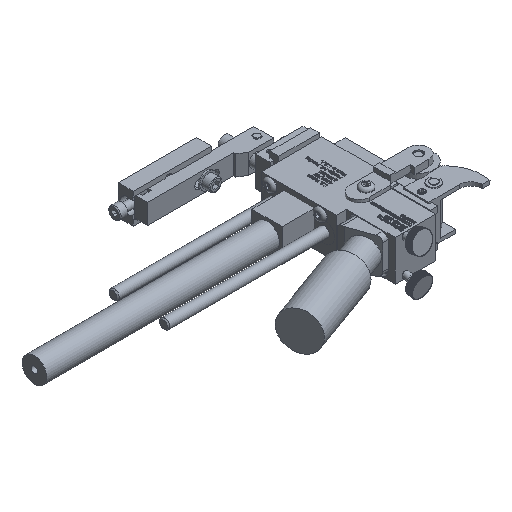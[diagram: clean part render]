
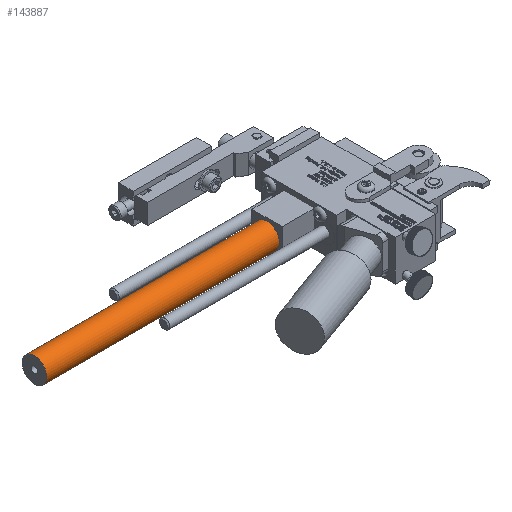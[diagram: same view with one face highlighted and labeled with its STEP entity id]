
A CAD part, isometric view. The second image highlights one B-rep face of the part: STEP entity #143887.
In plain terms, the highlighted cylindrical face has radius 7.747 mm (diameter 15.494 mm), a full revolution.
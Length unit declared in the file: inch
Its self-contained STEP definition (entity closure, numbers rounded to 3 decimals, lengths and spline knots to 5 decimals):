
#143860=CARTESIAN_POINT('',(0.2202,0.36387,0.375));
#143861=DIRECTION('',(1.0,0.,0.0));
#143862=DIRECTION('',(0.0,0.0,1.0));
#143863=AXIS2_PLACEMENT_3D('',#143860,#143861,#143862);
#143864=CYLINDRICAL_SURFACE('',#143863,0.305);
#143865=CARTESIAN_POINT('',(5.9702,0.36387,0.07));
#143866=VERTEX_POINT('',#143865);
#143867=CARTESIAN_POINT('',(5.9702,0.36387,0.375));
#143868=DIRECTION('',(-1.0,0.0,0.0));
#143869=DIRECTION('',(0.0,0.0,1.0));
#143870=AXIS2_PLACEMENT_3D('',#143867,#143868,#143869);
#143871=CIRCLE('',#143870,0.305);
#143872=EDGE_CURVE('',#143866,#143866,#143871,.T.);
#143873=ORIENTED_EDGE('',*,*,#143872,.T.);
#143874=EDGE_LOOP('',(#143873));
#143875=FACE_OUTER_BOUND('',#143874,.T.);
#143876=CARTESIAN_POINT('',(0.2202,0.36387,0.07));
#143877=VERTEX_POINT('',#143876);
#143878=CARTESIAN_POINT('',(0.2202,0.36387,0.375));
#143879=DIRECTION('',(-1.0,0.0,0.0));
#143880=DIRECTION('',(0.0,0.0,1.0));
#143881=AXIS2_PLACEMENT_3D('',#143878,#143879,#143880);
#143882=CIRCLE('',#143881,0.305);
#143883=EDGE_CURVE('',#143877,#143877,#143882,.T.);
#143884=ORIENTED_EDGE('',*,*,#143883,.F.);
#143885=EDGE_LOOP('',(#143884));
#143886=FACE_BOUND('',#143885,.T.);
#143887=ADVANCED_FACE('',(#143875,#143886),#143864,.T.);
